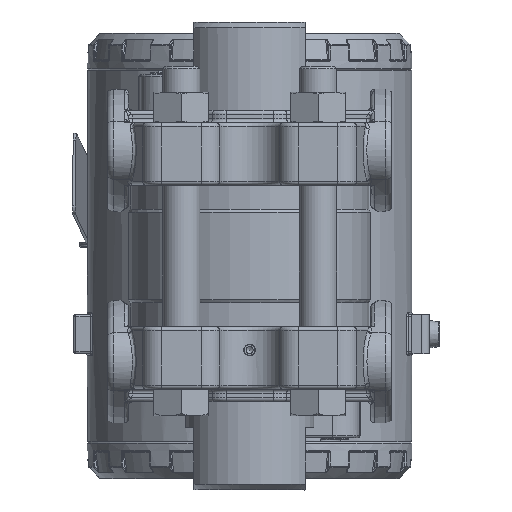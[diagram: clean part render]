
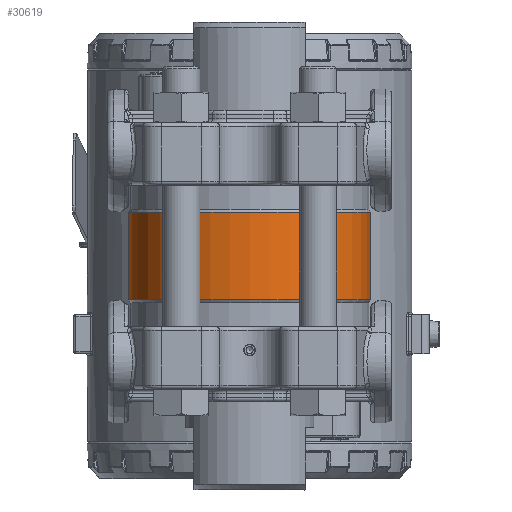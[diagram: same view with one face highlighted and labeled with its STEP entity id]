
A CAD part, left-side view. The second image highlights one B-rep face of the part: STEP entity #30619.
In plain terms, the highlighted cylindrical face has radius 31 mm (diameter 62 mm), a partial arc.
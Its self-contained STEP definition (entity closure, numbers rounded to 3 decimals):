
#1492=CYLINDRICAL_SURFACE('',#33158,31.);
#2398=FACE_OUTER_BOUND('',#4462,.T.);
#4462=EDGE_LOOP('',(#20494,#20495,#20496,#20497,#20498,#20499,#20500,#20501,
#20502,#20503));
#6619=LINE('',#46656,#7865);
#6620=LINE('',#46669,#7866);
#7865=VECTOR('',#37222,10.);
#7866=VECTOR('',#37223,10.);
#9108=CIRCLE('',#33138,31.);
#9111=CIRCLE('',#33141,31.);
#9117=CIRCLE('',#33151,31.);
#9118=CIRCLE('',#33152,31.);
#11460=B_SPLINE_CURVE_WITH_KNOTS('',3,(#46632,#46633,#46634,#46635,#46636),
 .UNSPECIFIED.,.F.,.F.,(4,1,4),(0.57,0.913,1.279),
 .UNSPECIFIED.);
#11462=B_SPLINE_CURVE_WITH_KNOTS('',3,(#46649,#46650,#46651,#46652,#46653,
#46654),.UNSPECIFIED.,.F.,.F.,(4,1,1,4),(0.,0.274,0.548,
0.708),.UNSPECIFIED.);
#11463=B_SPLINE_CURVE_WITH_KNOTS('',3,(#46657,#46658,#46659,#46660,#46661),
 .UNSPECIFIED.,.F.,.F.,(4,1,4),(0.57,0.913,1.279),
 .UNSPECIFIED.);
#11464=B_SPLINE_CURVE_WITH_KNOTS('',3,(#46663,#46664,#46665,#46666,#46667,
#46668),.UNSPECIFIED.,.F.,.F.,(4,1,1,4),(0.,0.274,
0.548,0.708),.UNSPECIFIED.);
#12617=VERTEX_POINT('',#46483);
#12619=VERTEX_POINT('',#46496);
#12620=VERTEX_POINT('',#46507);
#12632=VERTEX_POINT('',#46570);
#12633=VERTEX_POINT('',#46572);
#12634=VERTEX_POINT('',#46584);
#12636=VERTEX_POINT('',#46631);
#12639=VERTEX_POINT('',#46648);
#12640=VERTEX_POINT('',#46655);
#12641=VERTEX_POINT('',#46662);
#15553=EDGE_CURVE('',#12620,#12619,#9108,.T.);
#15557=EDGE_CURVE('',#12617,#12620,#9111,.T.);
#15569=EDGE_CURVE('',#12633,#12632,#9117,.T.);
#15572=EDGE_CURVE('',#12632,#12634,#9118,.T.);
#15576=EDGE_CURVE('',#12617,#12636,#11460,.T.);
#15580=EDGE_CURVE('',#12639,#12619,#11462,.T.);
#15581=EDGE_CURVE('',#12640,#12639,#6619,.T.);
#15582=EDGE_CURVE('',#12633,#12640,#11463,.T.);
#15583=EDGE_CURVE('',#12641,#12634,#11464,.T.);
#15584=EDGE_CURVE('',#12636,#12641,#6620,.T.);
#20494=ORIENTED_EDGE('',*,*,#15557,.T.);
#20495=ORIENTED_EDGE('',*,*,#15553,.T.);
#20496=ORIENTED_EDGE('',*,*,#15580,.F.);
#20497=ORIENTED_EDGE('',*,*,#15581,.F.);
#20498=ORIENTED_EDGE('',*,*,#15582,.F.);
#20499=ORIENTED_EDGE('',*,*,#15569,.T.);
#20500=ORIENTED_EDGE('',*,*,#15572,.T.);
#20501=ORIENTED_EDGE('',*,*,#15583,.F.);
#20502=ORIENTED_EDGE('',*,*,#15584,.F.);
#20503=ORIENTED_EDGE('',*,*,#15576,.F.);
#30619=ADVANCED_FACE('',(#2398),#1492,.T.);
#33138=AXIS2_PLACEMENT_3D('',#46508,#37176,#37177);
#33141=AXIS2_PLACEMENT_3D('',#46514,#37183,#37184);
#33151=AXIS2_PLACEMENT_3D('',#46573,#37205,#37206);
#33152=AXIS2_PLACEMENT_3D('',#46595,#37207,#37208);
#33158=AXIS2_PLACEMENT_3D('',#46647,#37220,#37221);
#37176=DIRECTION('center_axis',(0.,0.,1.));
#37177=DIRECTION('ref_axis',(-1.,0.,0.));
#37183=DIRECTION('center_axis',(0.,0.,1.));
#37184=DIRECTION('ref_axis',(-1.,0.,0.));
#37205=DIRECTION('center_axis',(0.,0.,-1.));
#37206=DIRECTION('ref_axis',(-1.,0.,0.));
#37207=DIRECTION('center_axis',(0.,0.,-1.));
#37208=DIRECTION('ref_axis',(-1.,0.,0.));
#37220=DIRECTION('center_axis',(0.,0.,1.));
#37221=DIRECTION('ref_axis',(-1.,0.,0.));
#37222=DIRECTION('',(0.,0.,-1.));
#37223=DIRECTION('',(0.,0.,1.));
#46483=CARTESIAN_POINT('',(29.591,9.241,-11.134));
#46496=CARTESIAN_POINT('',(29.591,-9.241,-11.134));
#46507=CARTESIAN_POINT('',(-31.,0.,-11.134));
#46508=CARTESIAN_POINT('Origin',(0.,0.,-11.134));
#46514=CARTESIAN_POINT('Origin',(0.,0.,-11.134));
#46570=CARTESIAN_POINT('',(-31.,0.,11.134));
#46572=CARTESIAN_POINT('',(29.591,-9.241,11.134));
#46573=CARTESIAN_POINT('Origin',(0.,0.,11.134));
#46584=CARTESIAN_POINT('',(29.591,9.241,11.134));
#46595=CARTESIAN_POINT('Origin',(0.,0.,11.134));
#46631=CARTESIAN_POINT('',(28.645,11.853,-5.));
#46632=CARTESIAN_POINT('Ctrl Pts',(29.591,9.241,-11.133));
#46633=CARTESIAN_POINT('Ctrl Pts',(29.348,10.019,-10.419));
#46634=CARTESIAN_POINT('Ctrl Pts',(28.86,11.344,-8.57));
#46635=CARTESIAN_POINT('Ctrl Pts',(28.645,11.853,-6.218));
#46636=CARTESIAN_POINT('Ctrl Pts',(28.645,11.853,-5.));
#46647=CARTESIAN_POINT('Origin',(0.,0.,0.));
#46648=CARTESIAN_POINT('',(28.645,-11.853,-5.));
#46649=CARTESIAN_POINT('Ctrl Pts',(28.645,-11.853,-5.));
#46650=CARTESIAN_POINT('Ctrl Pts',(28.645,-11.853,-5.913));
#46651=CARTESIAN_POINT('Ctrl Pts',(28.767,-11.563,-7.738));
#46652=CARTESIAN_POINT('Ctrl Pts',(29.174,-10.51,-9.79));
#46653=CARTESIAN_POINT('Ctrl Pts',(29.477,-9.605,-10.8));
#46654=CARTESIAN_POINT('Ctrl Pts',(29.59,-9.241,-11.134));
#46655=CARTESIAN_POINT('',(28.645,-11.853,5.));
#46656=CARTESIAN_POINT('',(28.645,-11.853,0.));
#46657=CARTESIAN_POINT('Ctrl Pts',(29.591,-9.241,11.133));
#46658=CARTESIAN_POINT('Ctrl Pts',(29.348,-10.019,10.419));
#46659=CARTESIAN_POINT('Ctrl Pts',(28.86,-11.344,8.57));
#46660=CARTESIAN_POINT('Ctrl Pts',(28.645,-11.853,6.218));
#46661=CARTESIAN_POINT('Ctrl Pts',(28.645,-11.853,5.));
#46662=CARTESIAN_POINT('',(28.645,11.853,5.));
#46663=CARTESIAN_POINT('Ctrl Pts',(28.645,11.853,5.));
#46664=CARTESIAN_POINT('Ctrl Pts',(28.645,11.853,5.913));
#46665=CARTESIAN_POINT('Ctrl Pts',(28.767,11.563,7.738));
#46666=CARTESIAN_POINT('Ctrl Pts',(29.174,10.51,9.79));
#46667=CARTESIAN_POINT('Ctrl Pts',(29.477,9.605,10.8));
#46668=CARTESIAN_POINT('Ctrl Pts',(29.59,9.241,11.134));
#46669=CARTESIAN_POINT('',(28.645,11.853,0.));
